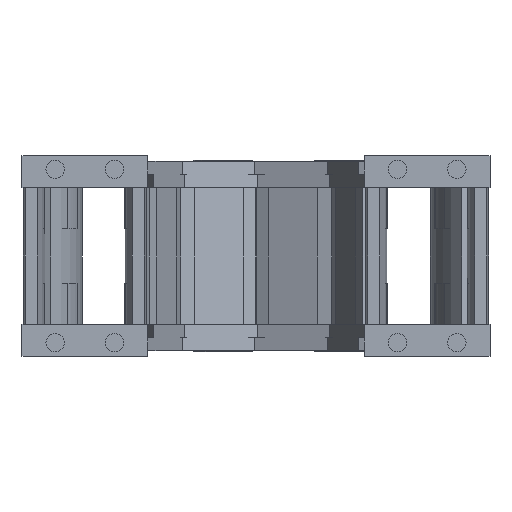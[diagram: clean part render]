
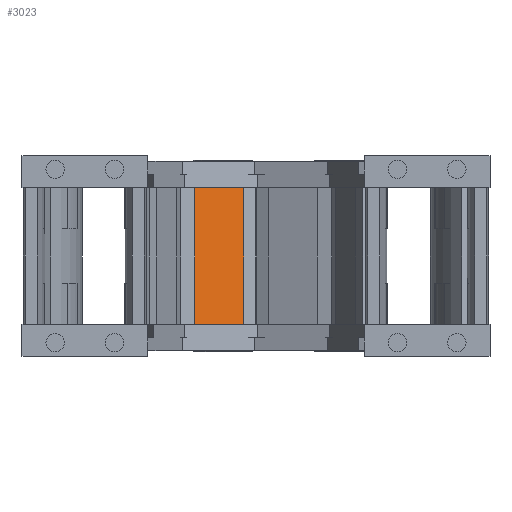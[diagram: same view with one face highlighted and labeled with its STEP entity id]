
A CAD part, left-side view. The second image highlights one B-rep face of the part: STEP entity #3023.
In plain terms, the highlighted planar face has unit normal (-0.925, -0.381, 0) as drawn and (0, 1, 0) by its records, which use the part's own axes.
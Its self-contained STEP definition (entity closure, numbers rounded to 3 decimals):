
#2766=DIRECTION('',(1.,0.,0.));
#2767=VECTOR('',#2766,23.);
#2768=CARTESIAN_POINT('',(-11.5,3.,47.5));
#2769=LINE('',#2768,#2767);
#2815=DIRECTION('',(0.,0.,-1.));
#2816=VECTOR('',#2815,60.);
#2817=CARTESIAN_POINT('',(11.5,3.,47.5));
#2818=LINE('',#2817,#2816);
#2837=DIRECTION('',(-1.,0.,0.));
#2838=VECTOR('',#2837,23.);
#2839=CARTESIAN_POINT('',(11.5,3.,-12.5));
#2840=LINE('',#2839,#2838);
#2851=DIRECTION('',(0.,0.,-1.));
#2852=VECTOR('',#2851,60.);
#2853=CARTESIAN_POINT('',(-11.5,3.,47.5));
#2854=LINE('',#2853,#2852);
#2878=CARTESIAN_POINT('',(11.5,3.,47.5));
#2879=VERTEX_POINT('',#2878);
#2882=CARTESIAN_POINT('',(-11.5,3.,47.5));
#2883=VERTEX_POINT('',#2882);
#2890=CARTESIAN_POINT('',(11.5,3.,-12.5));
#2891=VERTEX_POINT('',#2890);
#2892=CARTESIAN_POINT('',(-11.5,3.,-12.5));
#2893=VERTEX_POINT('',#2892);
#3011=CARTESIAN_POINT('',(15.5,3.,-2.5));
#3012=DIRECTION('',(0.,1.,0.));
#3013=DIRECTION('',(-1.,0.,0.));
#3014=AXIS2_PLACEMENT_3D('',#3011,#3012,#3013);
#3015=PLANE('',#3014);
#3017=ORIENTED_EDGE('',*,*,#3016,.T.);
#3018=ORIENTED_EDGE('',*,*,#2995,.F.);
#3019=ORIENTED_EDGE('',*,*,#2975,.F.);
#3020=ORIENTED_EDGE('',*,*,#2907,.F.);
#3021=EDGE_LOOP('',(#3017,#3018,#3019,#3020));
#3022=FACE_OUTER_BOUND('',#3021,.F.);
#3023=ADVANCED_FACE('',(#3022),#3015,.T.);
#2907=EDGE_CURVE('',#2883,#2879,#2769,.T.);
#2975=EDGE_CURVE('',#2879,#2891,#2818,.T.);
#2995=EDGE_CURVE('',#2891,#2893,#2840,.T.);
#3016=EDGE_CURVE('',#2883,#2893,#2854,.T.);
